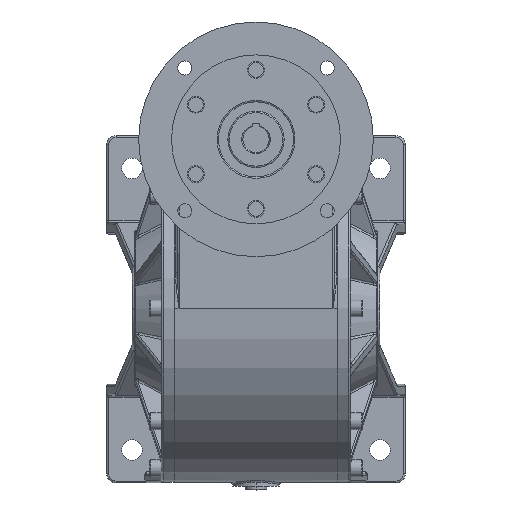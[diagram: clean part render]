
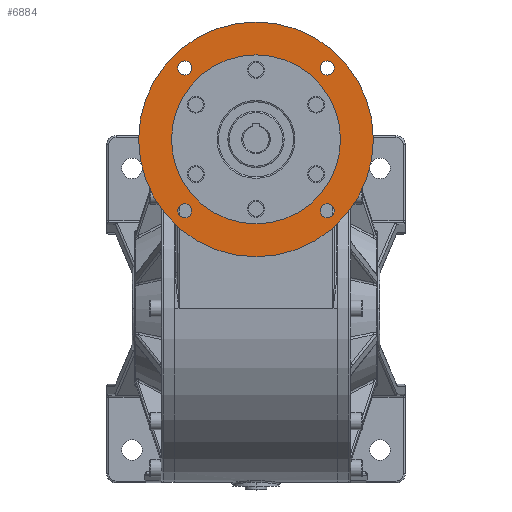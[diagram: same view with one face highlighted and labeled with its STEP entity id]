
A CAD part, top view. The second image highlights one B-rep face of the part: STEP entity #6884.
In plain terms, the highlighted planar face has unit normal (0, 0, 1) as drawn and (0, 0, -1) by its records, which use the part's own axes.
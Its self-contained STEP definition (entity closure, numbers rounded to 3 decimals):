
#6503 = VERTEX_POINT ( 'NONE', #66851 ) ;
#6505 = EDGE_CURVE ( 'NONE', #6503, #6506, #66850, .T. ) ;
#6506 = VERTEX_POINT ( 'NONE', #66903 ) ;
#6520 = VERTEX_POINT ( 'NONE', #66935 ) ;
#6522 = EDGE_CURVE ( 'NONE', #6520, #6523, #66934, .T. ) ;
#6523 = VERTEX_POINT ( 'NONE', #66929 ) ;
#6660 = VERTEX_POINT ( 'NONE', #67215 ) ;
#6662 = EDGE_CURVE ( 'NONE', #6660, #6663, #67214, .T. ) ;
#6663 = VERTEX_POINT ( 'NONE', #67209 ) ;
#6727 = VERTEX_POINT ( 'NONE', #67338 ) ;
#6729 = EDGE_CURVE ( 'NONE', #6727, #6730, #67337, .T. ) ;
#6730 = VERTEX_POINT ( 'NONE', #67332 ) ;
#6739 = VERTEX_POINT ( 'NONE', #67320 ) ;
#6741 = EDGE_CURVE ( 'NONE', #6742, #6739, #67321, .T. ) ;
#6742 = VERTEX_POINT ( 'NONE', #67378 ) ;
#6802 = VERTEX_POINT ( 'NONE', #67491 ) ;
#6804 = EDGE_CURVE ( 'NONE', #6802, #6805, #67490, .T. ) ;
#6805 = VERTEX_POINT ( 'NONE', #67485 ) ;
#6812 = EDGE_LOOP ( 'NONE', ( #6813, #6862 ) ) ;
#6813 = ORIENTED_EDGE ( 'NONE', *, *, #6861, .F. ) ;
#6849 = ORIENTED_EDGE ( 'NONE', *, *, #6850, .T. ) ;
#6850 = EDGE_CURVE ( 'NONE', #6739, #6742, #67571, .T. ) ;
#6851 = ORIENTED_EDGE ( 'NONE', *, *, #6883, .F. ) ;
#6852 = ORIENTED_EDGE ( 'NONE', *, *, #6804, .F. ) ;
#6861 = EDGE_CURVE ( 'NONE', #6506, #6503, #67613, .T. ) ;
#6862 = ORIENTED_EDGE ( 'NONE', *, *, #6505, .F. ) ;
#6863 = EDGE_LOOP ( 'NONE', ( #6864, #6869 ) ) ;
#6864 = ORIENTED_EDGE ( 'NONE', *, *, #6865, .F. ) ;
#6865 = EDGE_CURVE ( 'NONE', #6663, #6660, #67609, .T. ) ;
#6869 = ORIENTED_EDGE ( 'NONE', *, *, #6662, .F. ) ;
#6870 = EDGE_LOOP ( 'NONE', ( #6871, #6873 ) ) ;
#6871 = ORIENTED_EDGE ( 'NONE', *, *, #6872, .F. ) ;
#6872 = EDGE_CURVE ( 'NONE', #6730, #6727, #67604, .T. ) ;
#6873 = ORIENTED_EDGE ( 'NONE', *, *, #6729, .F. ) ;
#6874 = EDGE_LOOP ( 'NONE', ( #6875, #6849 ) ) ;
#6875 = ORIENTED_EDGE ( 'NONE', *, *, #6741, .T. ) ;
#6876 = EDGE_LOOP ( 'NONE', ( #6851, #6852 ) ) ;
#6883 = EDGE_CURVE ( 'NONE', #6805, #6802, #67658, .T. ) ;
#6884 = ADVANCED_FACE ( 'NONE', ( #67653, #67652, #67651, #67650, #67649, #67648 ), #67695, .T. ) ;
#6885 = EDGE_LOOP ( 'NONE', ( #6886, #6888 ) ) ;
#6886 = ORIENTED_EDGE ( 'NONE', *, *, #6887, .F. ) ;
#6887 = EDGE_CURVE ( 'NONE', #6523, #6520, #67690, .T. ) ;
#6888 = ORIENTED_EDGE ( 'NONE', *, *, #6522, .F. ) ;
#66846 = DIRECTION ( 'NONE',  ( -1., 0., 0. ) ) ;
#66847 = DIRECTION ( 'NONE',  ( 0., 0., -1. ) ) ;
#66848 = CARTESIAN_POINT ( 'NONE',  ( 76.014, -76.014, 0. ) ) ;
#66849 = AXIS2_PLACEMENT_3D ( 'NONE', #66848, #66847, #66846 ) ;
#66850 = CIRCLE ( 'NONE', #66849, 7.5 ) ;
#66851 = CARTESIAN_POINT ( 'NONE',  ( 83.514, -76.014, 0. ) ) ;
#66903 = CARTESIAN_POINT ( 'NONE',  ( 68.514, -76.014, 0. ) ) ;
#66929 = CARTESIAN_POINT ( 'NONE',  ( -83.514, -76.014, 0. ) ) ;
#66930 = DIRECTION ( 'NONE',  ( -1., 0., 0. ) ) ;
#66931 = DIRECTION ( 'NONE',  ( 0., 0., -1. ) ) ;
#66932 = CARTESIAN_POINT ( 'NONE',  ( -76.014, -76.014, 0. ) ) ;
#66933 = AXIS2_PLACEMENT_3D ( 'NONE', #66932, #66931, #66930 ) ;
#66934 = CIRCLE ( 'NONE', #66933, 7.5 ) ;
#66935 = CARTESIAN_POINT ( 'NONE',  ( -68.514, -76.014, 0. ) ) ;
#67209 = CARTESIAN_POINT ( 'NONE',  ( -83.514, 76.014, 0. ) ) ;
#67210 = DIRECTION ( 'NONE',  ( -1., 0., 0. ) ) ;
#67211 = DIRECTION ( 'NONE',  ( 0., 0., -1. ) ) ;
#67212 = CARTESIAN_POINT ( 'NONE',  ( -76.014, 76.014, 0. ) ) ;
#67213 = AXIS2_PLACEMENT_3D ( 'NONE', #67212, #67211, #67210 ) ;
#67214 = CIRCLE ( 'NONE', #67213, 7.5 ) ;
#67215 = CARTESIAN_POINT ( 'NONE',  ( -68.514, 76.014, 0. ) ) ;
#67320 = CARTESIAN_POINT ( 'NONE',  ( 125., 0., 0. ) ) ;
#67321 = CIRCLE ( 'NONE', #67382, 125. ) ;
#67332 = CARTESIAN_POINT ( 'NONE',  ( 68.514, 76.014, 0. ) ) ;
#67333 = DIRECTION ( 'NONE',  ( -1., 0., 0. ) ) ;
#67334 = DIRECTION ( 'NONE',  ( 0., 0., -1. ) ) ;
#67335 = CARTESIAN_POINT ( 'NONE',  ( 76.014, 76.014, 0. ) ) ;
#67336 = AXIS2_PLACEMENT_3D ( 'NONE', #67335, #67334, #67333 ) ;
#67337 = CIRCLE ( 'NONE', #67336, 7.5 ) ;
#67338 = CARTESIAN_POINT ( 'NONE',  ( 83.514, 76.014, 0. ) ) ;
#67378 = CARTESIAN_POINT ( 'NONE',  ( -125., 0., 0. ) ) ;
#67379 = DIRECTION ( 'NONE',  ( -1., 0., 0. ) ) ;
#67380 = DIRECTION ( 'NONE',  ( 0., 0., -1. ) ) ;
#67381 = CARTESIAN_POINT ( 'NONE',  ( 0., 0., 0. ) ) ;
#67382 = AXIS2_PLACEMENT_3D ( 'NONE', #67381, #67380, #67379 ) ;
#67485 = CARTESIAN_POINT ( 'NONE',  ( -90., 0., 0. ) ) ;
#67486 = DIRECTION ( 'NONE',  ( -1., 0., 0. ) ) ;
#67487 = DIRECTION ( 'NONE',  ( 0., 0., -1. ) ) ;
#67488 = CARTESIAN_POINT ( 'NONE',  ( 0., 0., 0. ) ) ;
#67489 = AXIS2_PLACEMENT_3D ( 'NONE', #67488, #67487, #67486 ) ;
#67490 = CIRCLE ( 'NONE', #67489, 90. ) ;
#67491 = CARTESIAN_POINT ( 'NONE',  ( 90., 0., 0. ) ) ;
#67569 = CARTESIAN_POINT ( 'NONE',  ( 0., 0., 0. ) ) ;
#67570 = AXIS2_PLACEMENT_3D ( 'NONE', #67569, #67633, #67632 ) ;
#67571 = CIRCLE ( 'NONE', #67570, 125. ) ;
#67601 = DIRECTION ( 'NONE',  ( 0., 0., -1. ) ) ;
#67602 = CARTESIAN_POINT ( 'NONE',  ( 76.014, 76.014, 0. ) ) ;
#67603 = AXIS2_PLACEMENT_3D ( 'NONE', #67602, #67601, #67665 ) ;
#67604 = CIRCLE ( 'NONE', #67603, 7.5 ) ;
#67605 = DIRECTION ( 'NONE',  ( -1., 0., 0. ) ) ;
#67606 = DIRECTION ( 'NONE',  ( 0., 0., -1. ) ) ;
#67607 = CARTESIAN_POINT ( 'NONE',  ( -76.014, 76.014, 0. ) ) ;
#67608 = AXIS2_PLACEMENT_3D ( 'NONE', #67607, #67606, #67605 ) ;
#67609 = CIRCLE ( 'NONE', #67608, 7.5 ) ;
#67610 = DIRECTION ( 'NONE',  ( -1., 0., 0. ) ) ;
#67611 = DIRECTION ( 'NONE',  ( 0., 0., -1. ) ) ;
#67612 = AXIS2_PLACEMENT_3D ( 'NONE', #67618, #67611, #67610 ) ;
#67613 = CIRCLE ( 'NONE', #67612, 7.5 ) ;
#67618 = CARTESIAN_POINT ( 'NONE',  ( 76.014, -76.014, 0. ) ) ;
#67632 = DIRECTION ( 'NONE',  ( -1., 0., 0. ) ) ;
#67633 = DIRECTION ( 'NONE',  ( 0., 0., -1. ) ) ;
#67648 = FACE_BOUND ( 'NONE', #6876, .T. ) ;
#67649 = FACE_OUTER_BOUND ( 'NONE', #6874, .T. ) ;
#67650 = FACE_BOUND ( 'NONE', #6870, .T. ) ;
#67651 = FACE_BOUND ( 'NONE', #6863, .T. ) ;
#67652 = FACE_BOUND ( 'NONE', #6812, .T. ) ;
#67653 = FACE_BOUND ( 'NONE', #6885, .T. ) ;
#67654 = DIRECTION ( 'NONE',  ( -1., 0., 0. ) ) ;
#67655 = DIRECTION ( 'NONE',  ( 0., 0., -1. ) ) ;
#67656 = CARTESIAN_POINT ( 'NONE',  ( 0., 0., 0. ) ) ;
#67657 = AXIS2_PLACEMENT_3D ( 'NONE', #67656, #67655, #67654 ) ;
#67658 = CIRCLE ( 'NONE', #67657, 90. ) ;
#67665 = DIRECTION ( 'NONE',  ( -1., 0., 0. ) ) ;
#67686 = DIRECTION ( 'NONE',  ( -1., 0., 0. ) ) ;
#67687 = DIRECTION ( 'NONE',  ( 0., 0., -1. ) ) ;
#67688 = CARTESIAN_POINT ( 'NONE',  ( -76.014, -76.014, 0. ) ) ;
#67689 = AXIS2_PLACEMENT_3D ( 'NONE', #67688, #67687, #67686 ) ;
#67690 = CIRCLE ( 'NONE', #67689, 7.5 ) ;
#67691 = DIRECTION ( 'NONE',  ( -1., 0., 0. ) ) ;
#67692 = DIRECTION ( 'NONE',  ( 0., 0., -1. ) ) ;
#67693 = CARTESIAN_POINT ( 'NONE',  ( 0., 90., 0. ) ) ;
#67694 = AXIS2_PLACEMENT_3D ( 'NONE', #67693, #67692, #67691 ) ;
#67695 = PLANE ( 'NONE',  #67694 ) ;
